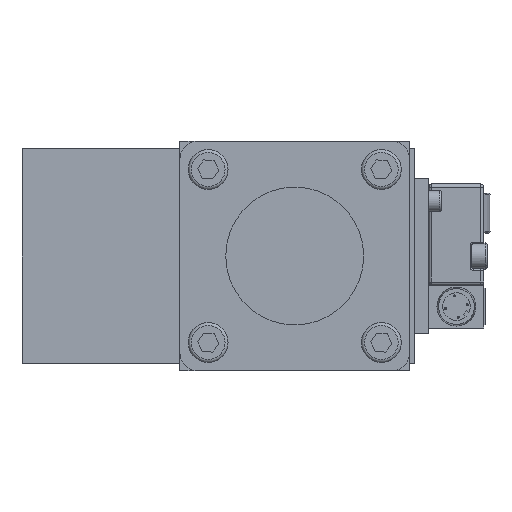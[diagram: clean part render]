
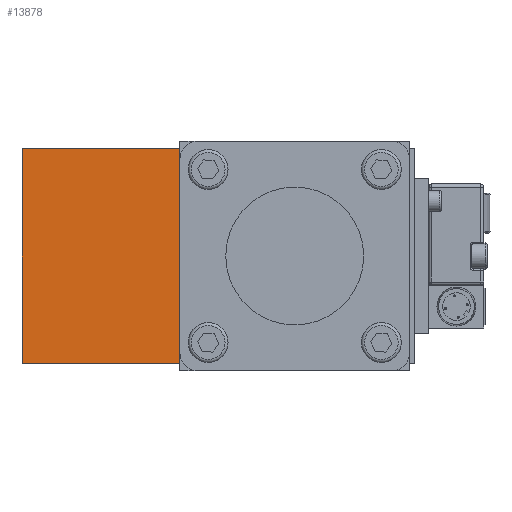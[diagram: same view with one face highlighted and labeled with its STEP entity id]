
A CAD part, front view. The second image highlights one B-rep face of the part: STEP entity #13878.
In plain terms, the highlighted planar face has unit normal (0, -1, 0).
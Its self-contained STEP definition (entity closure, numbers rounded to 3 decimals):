
#1185=PLANE('',#15346);
#2012=FACE_OUTER_BOUND('',#3156,.T.);
#3156=EDGE_LOOP('',(#12798,#12799,#12800,#12801));
#3890=LINE('',#19720,#4912);
#3905=LINE('',#19768,#4927);
#4795=LINE('',#29184,#5817);
#4796=LINE('',#29187,#5818);
#4912=VECTOR('',#15721,51.5);
#4927=VECTOR('',#15758,51.5);
#5817=VECTOR('',#19254,70.);
#5818=VECTOR('',#19259,70.);
#5956=VERTEX_POINT('',#19717);
#5957=VERTEX_POINT('',#19719);
#5978=VERTEX_POINT('',#19765);
#5979=VERTEX_POINT('',#19767);
#7340=EDGE_CURVE('',#5956,#5957,#3890,.T.);
#7364=EDGE_CURVE('',#5979,#5978,#3905,.T.);
#9039=EDGE_CURVE('',#5956,#5979,#4795,.T.);
#9040=EDGE_CURVE('',#5957,#5978,#4796,.T.);
#12798=ORIENTED_EDGE('',*,*,#9040,.F.);
#12799=ORIENTED_EDGE('',*,*,#7340,.F.);
#12800=ORIENTED_EDGE('',*,*,#9039,.T.);
#12801=ORIENTED_EDGE('',*,*,#7364,.T.);
#13878=ADVANCED_FACE('',(#2012),#1185,.T.);
#15346=AXIS2_PLACEMENT_3D('',#29186,#19257,#19258);
#15721=DIRECTION('',(-1.,0.,0.));
#15758=DIRECTION('',(-1.,0.,0.));
#19254=DIRECTION('',(0.,0.,1.));
#19257=DIRECTION('center_axis',(0.,-1.,0.));
#19258=DIRECTION('ref_axis',(0.,0.,-1.));
#19259=DIRECTION('',(0.,0.,1.));
#19717=CARTESIAN_POINT('',(51.5,0.,-35.));
#19719=CARTESIAN_POINT('',(0.,0.,-35.));
#19720=CARTESIAN_POINT('',(51.5,0.,-35.));
#19765=CARTESIAN_POINT('',(0.,0.,35.));
#19767=CARTESIAN_POINT('',(51.5,0.,35.));
#19768=CARTESIAN_POINT('',(51.5,0.,35.));
#29184=CARTESIAN_POINT('',(51.5,0.,-35.));
#29186=CARTESIAN_POINT('Origin',(109.,0.,0.));
#29187=CARTESIAN_POINT('',(0.,0.,-35.));
